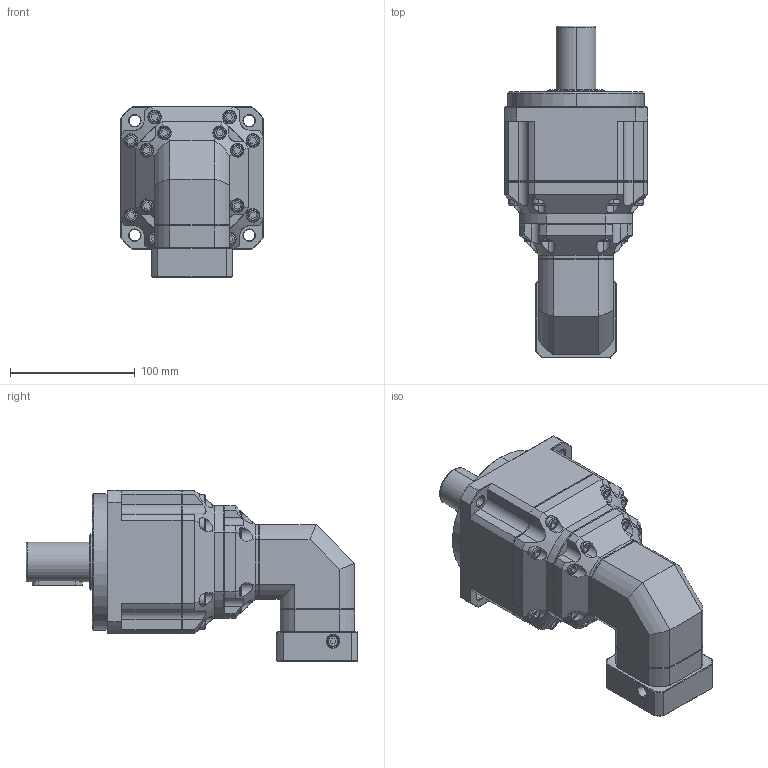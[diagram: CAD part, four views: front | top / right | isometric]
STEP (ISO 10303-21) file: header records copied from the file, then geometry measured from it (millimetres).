
FILE_DESCRIPTION (( 'STEP AP214' ), '1' );
FILE_NAME ('ZPBR115-D32-L3-P1-11-60-75-M5.step', '2024-06-29T08:08:49', ( 'Windows 蚚誧' ), ( 'Organization' ), 'SwSTEP 2.0', 'SolidWorks 2016', '' );
FILE_SCHEMA (( 'AUTOMOTIVE_DESIGN' ));
Length unit declared in the file: millimetre
Products named in the file (1): ZPBR115-D32-L3-P1-11-60-75-M5
Bounding box: 115 x 266.5 x 137.5 mm (x, y, z)
Surface area: 132541.7 mm2 (no closed solid volume)
Topology: 0 solids, 3 shells, 1977 faces, 5280 edges, 3418 vertices
Faces by surface type: plane 1137, bspline 413, cylinder 239, cone 188
Full cylindrical faces by diameter (mm): 10.2 x1
Entity records: 107175 total; most frequent: CARTESIAN_POINT 52417, ORIENTED_EDGE 10538, DIRECTION 7906, EDGE_CURVE 5278, LINE 3440, VECTOR 3440, VERTEX_POINT 3417, AXIS2_PLACEMENT_3D 2233
